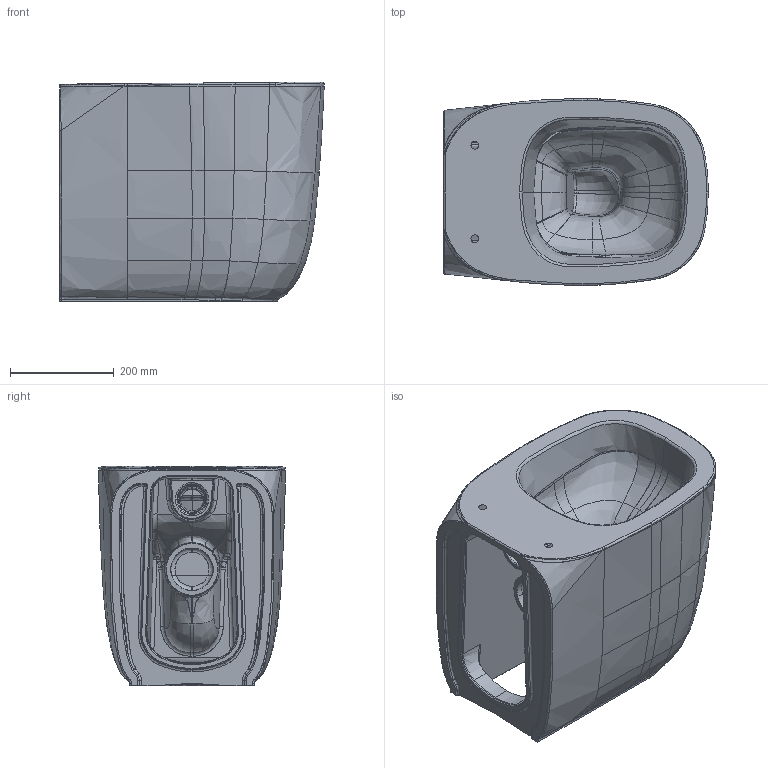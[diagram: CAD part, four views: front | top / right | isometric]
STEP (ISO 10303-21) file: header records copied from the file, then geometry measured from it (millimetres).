
FILE_DESCRIPTION(('CATIA V5 STEP Exchange'),'2;1');
FILE_NAME('C:\Users\167035\Downloads\7811\3D_7811.stp','2025-07-21T10:41:46+00:00',('none'),('none'),'CATIA Version 5 Release 19 SP 5 (IN-10)','CATIA V5 STEP AP214','none');
FILE_SCHEMA(('AUTOMOTIVE_DESIGN { 1 0 10303 214 1 1 1 1 }'));
Products named in the file (1): 3D_7811
Bounding box: 510.04 x 360.17 x 424.01 mm (x, y, z)
Surface area: 1323938.8 mm2 (no closed solid volume)
Topology: 0 solids, 660 shells, 693 faces, 3776 edges, 3711 vertices
Faces by surface type: bspline 667, plane 26
Entity records: 137924 total; most frequent: CARTESIAN_POINT 114405, ORIENTED_EDGE 3787, EDGE_CURVE 3750, VERTEX_POINT 3717, B_SPLINE_CURVE_WITH_KNOTS 3259, EDGE_LOOP 700, ADVANCED_FACE 693, FACE_OUTER_BOUND 693
